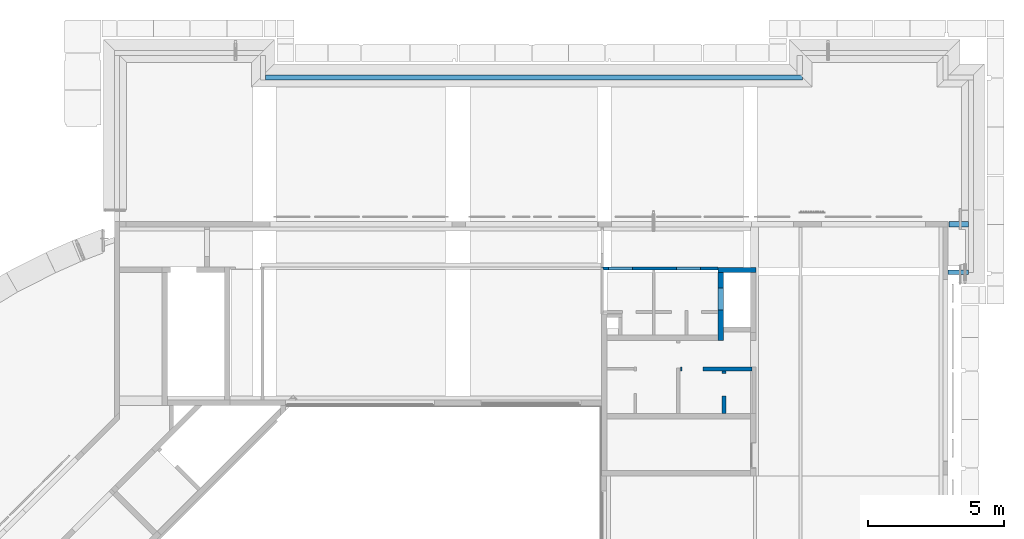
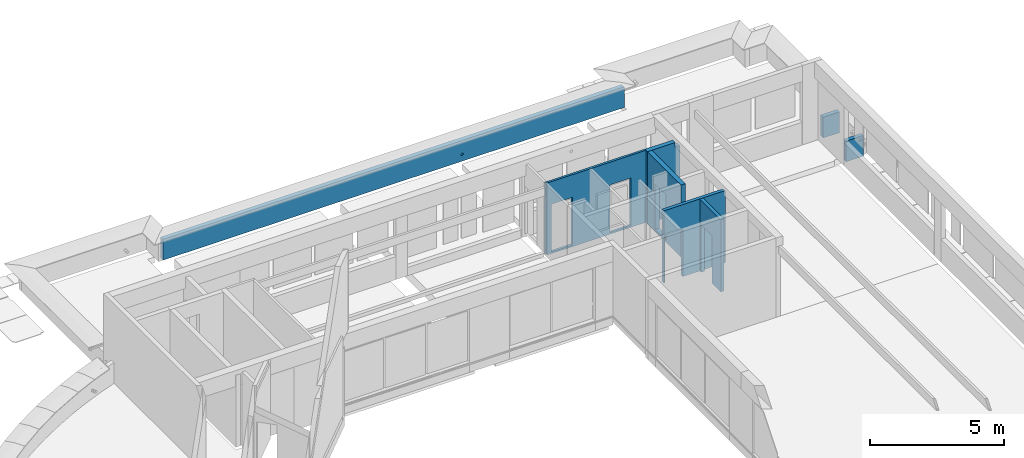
# One storey, part 27 of 38: 8 walls.
"""IFC4X3_ADD2 building model written with IfcOpenShell, lengths in millimetres."""

from ifc_helpers import new_model, si_unit, direction, frame, origin_with_axes, place, context, subcontext, project, spatial, faceted_brep, polygons, source, transform, mapped, type_object, type_shapes, element, save


model = new_model("IFC4X3_ADD2")

# Units and contexts
model_context = context("Model", 3, precision=1e-05, world=origin_with_axes(), true_north=direction((0.0, 1.0)))
body_context = subcontext(model_context, "Body", "Model", "MODEL_VIEW")
ifc_project = project(units=[si_unit("LENGTHUNIT", "METRE", prefix="MILLI"), si_unit("AREAUNIT", "SQUARE_METRE"), si_unit("VOLUMEUNIT", "CUBIC_METRE"), si_unit("PLANEANGLEUNIT", "RADIAN"), si_unit("TIMEUNIT", "SECOND"), si_unit("MASSUNIT", "GRAM")], contexts=[model_context])

# Site, building, storey
site_placement = place(None, origin_with_axes())
site = spatial("IfcSite", under=ifc_project, at=site_placement, Name="Site", CompositionType="ELEMENT")
building_placement = place(site_placement, origin_with_axes())
building = spatial("IfcBuilding", under=site, at=building_placement, Name="IFC Building Story")
storey_placement = place(building_placement, frame((0.0, 0.0, 10800.0), z_axis=(0.0, 0.0, 1.0), x_axis=(1.0, 0.0, 0.0)))
storey = spatial("IfcBuildingStorey", under=building, at=storey_placement, Name="030", Elevation=10800.0)

# Walls
wall_type = type_object("IfcWallType", Name="Basic Wall_BB_10.01.41#02_Gipskartonwand_Vochtbestendig_MS100 _ 25.50.25_ 100 mm5", PredefinedType="NOTDEFINED")
shared_shape = source(origin_with_axes(), body_context, "Body", "Brep", [
    faceted_brep([(4225.00390322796, 49.9999999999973, 0.0), (4225.00390322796, 49.9999999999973, 3270.0), (4225.00390322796, 37.5000000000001, 3270.0), (4225.00390322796, 37.5000000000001, 0.0), (-87.5, 49.9999999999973, 3270.0), (-87.5, 37.5000000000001, 3270.0), (-87.50000000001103, 49.9999999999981, 0.0), (-87.50000000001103, 37.4999999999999, 0.0), (3575.00390322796, 49.9999999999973, 2240.0), (3575.00390322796, 49.9999999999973, 75.0), (3575.00390322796, 37.5000000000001, 75.0), (3575.00390322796, 37.5000000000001, 2240.0), (2685.003903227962, 49.9999999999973, 75.0), (2685.003903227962, 37.5000000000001, 75.0), (2685.003903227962, 49.9999999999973, 2240.0), (2685.003903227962, 37.5000000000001, 2240.0), (1060.00390322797, 49.9999999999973, 2240.0), (1060.00390322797, 49.9999999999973, 75.0), (1060.00390322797, 37.5000000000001, 75.0), (1060.00390322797, 37.5000000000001, 2240.0), (170.0039032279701, 49.9999999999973, 75.0), (170.0039032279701, 37.5000000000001, 75.0), (170.0039032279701, 49.9999999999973, 2240.0), (170.0039032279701, 37.5000000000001, 2240.0)], [[[0, 1, 2, 3]], [[1, 4, 5, 2]], [[4, 6, 7, 5]], [[6, 0, 3, 7]], [[8, 9, 10, 11]], [[9, 12, 13, 10]], [[12, 14, 15, 13]], [[14, 8, 11, 15]], [[16, 17, 18, 19]], [[17, 20, 21, 18]], [[20, 22, 23, 21]], [[22, 16, 19, 23]], [[17, 16, 22, 20], [9, 8, 14, 12], [1, 0, 6, 4]], [[23, 19, 18, 21], [15, 11, 10, 13], [7, 3, 2, 5]]], outer=[[True], [True], [True], [True], [True], [True], [True], [True], [True], [True], [True], [True], [False, False, True], [False, False, True]]),
    faceted_brep([(4225.00390322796, 37.5000000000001, 0.0), (4225.00390322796, 37.5000000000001, 3270.0), (4225.00390322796, 25.0, 3270.0), (4225.00390322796, 25.0, 0.0), (-75.0, 37.4999999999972, 3270.0), (-75.0, 25.0, 3270.0), (-74.99999999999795, 37.5000000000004, 0.0), (-74.99999999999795, 25.0, 0.0), (3575.00390322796, 37.5000000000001, 2240.0), (3575.00390322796, 37.5000000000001, 75.0), (3575.00390322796, 25.0, 75.0), (3575.00390322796, 25.0, 2240.0), (2685.003903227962, 37.5000000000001, 75.0), (2685.003903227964, 25.0, 75.0), (2685.003903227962, 37.5000000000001, 2240.0), (2685.003903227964, 25.0, 2240.0), (1060.00390322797, 37.5000000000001, 2240.0), (1060.00390322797, 37.5000000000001, 75.0), (1060.00390322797, 25.0, 75.0), (1060.00390322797, 25.0, 2240.0), (170.0039032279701, 37.5000000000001, 75.0), (170.0039032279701, 25.0, 75.0), (170.0039032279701, 37.5000000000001, 2240.0), (170.0039032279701, 25.0, 2240.0)], [[[0, 1, 2, 3]], [[1, 4, 5, 2]], [[4, 6, 7, 5]], [[6, 0, 3, 7]], [[8, 9, 10, 11]], [[9, 12, 13, 10]], [[12, 14, 15, 13]], [[14, 8, 11, 15]], [[16, 17, 18, 19]], [[17, 20, 21, 18]], [[20, 22, 23, 21]], [[22, 16, 19, 23]], [[17, 16, 22, 20], [9, 8, 14, 12], [1, 0, 6, 4]], [[23, 19, 18, 21], [15, 11, 10, 13], [7, 3, 2, 5]]], outer=[[True], [True], [True], [True], [True], [True], [True], [True], [True], [True], [True], [True], [False, False, True], [False, False, True]]),
    faceted_brep([(4225.00390322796, 25.0, 0.0), (4225.00390322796, 25.0, 3270.0), (4225.00390322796, -25.0, 3270.0), (4225.00390322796, -25.0, 0.0), (-25.0, 25.000000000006, 3270.0), (-25.0, -25.0, 3270.0), (-24.999999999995, 24.9999999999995, 0.0), (-24.999999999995, -25.0, 0.0), (3575.00390322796, 25.0, 2240.0), (3575.00390322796, 25.0, 75.0), (3575.00390322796, -25.0, 75.0), (3575.00390322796, -25.0, 2240.0), (2685.003903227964, 25.0, 75.0), (2685.003903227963, -25.0, 75.0), (2685.003903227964, 25.0, 2240.0), (2685.003903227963, -25.0, 2240.0), (1060.00390322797, 25.0, 2240.0), (1060.00390322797, 25.0, 75.0), (1060.00390322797, -25.0, 75.0), (1060.00390322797, -25.0, 2240.0), (170.0039032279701, 25.0, 75.0), (170.0039032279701, -25.0, 75.0), (170.0039032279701, 25.0, 2240.0), (170.0039032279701, -25.0, 2240.0)], [[[0, 1, 2, 3]], [[1, 4, 5, 2]], [[4, 6, 7, 5]], [[6, 0, 3, 7]], [[8, 9, 10, 11]], [[9, 12, 13, 10]], [[12, 14, 15, 13]], [[14, 8, 11, 15]], [[16, 17, 18, 19]], [[17, 20, 21, 18]], [[20, 22, 23, 21]], [[22, 16, 19, 23]], [[17, 16, 22, 20], [9, 8, 14, 12], [1, 0, 6, 4]], [[23, 19, 18, 21], [15, 11, 10, 13], [7, 3, 2, 5]]], outer=[[True], [True], [True], [True], [True], [True], [True], [True], [True], [True], [True], [True], [False, False, True], [False, False, True]]),
    faceted_brep([(4225.00390322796, -25.0, 0.0), (4225.00390322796, -25.0, 3270.0), (4225.00390322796, -37.5000000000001, 3270.0), (4225.00390322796, -37.5000000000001, 0.0), (-12.5, -25.0000000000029, 3270.0), (-12.5, -37.5000000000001, 3270.0), (-12.50000000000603, -24.9999999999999, 0.0), (-12.50000000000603, -37.5000000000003, 0.0), (3575.00390322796, -25.0, 2240.0), (3575.00390322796, -25.0, 75.0), (3575.00390322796, -37.5000000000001, 75.0), (3575.00390322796, -37.5000000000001, 2240.0), (2685.003903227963, -25.0, 75.0), (2685.003903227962, -37.5000000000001, 75.0), (2685.003903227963, -25.0, 2240.0), (2685.003903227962, -37.5000000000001, 2240.0), (1060.00390322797, -25.0, 2240.0), (1060.00390322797, -25.0, 75.0), (1060.00390322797, -37.5000000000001, 75.0), (1060.00390322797, -37.5000000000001, 2240.0), (170.0039032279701, -25.0, 75.0), (170.0039032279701, -37.5000000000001, 75.0), (170.0039032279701, -25.0, 2240.0), (170.0039032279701, -37.5000000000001, 2240.0)], [[[0, 1, 2, 3]], [[1, 4, 5, 2]], [[4, 6, 7, 5]], [[6, 0, 3, 7]], [[8, 9, 10, 11]], [[9, 12, 13, 10]], [[12, 14, 15, 13]], [[14, 8, 11, 15]], [[16, 17, 18, 19]], [[17, 20, 21, 18]], [[20, 22, 23, 21]], [[22, 16, 19, 23]], [[17, 16, 22, 20], [9, 8, 14, 12], [1, 0, 6, 4]], [[23, 19, 18, 21], [15, 11, 10, 13], [7, 3, 2, 5]]], outer=[[True], [True], [True], [True], [True], [True], [True], [True], [True], [True], [True], [True], [False, False, True], [False, False, True]]),
    faceted_brep([(4225.00390322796, -37.5000000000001, 0.0), (4225.00390322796, -37.5000000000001, 3270.0), (4225.00390322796, -50.0, 3270.0), (4225.00390322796, -50.0, 0.0), (0.0, -37.4999999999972, 3270.0), (0.0, -50.0000000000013, 3270.0), (0.0, -37.5000000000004, 0.0), (0.0, -50.0, 0.0), (1060.00390322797, -37.5000000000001, 2240.0), (1060.00390322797, -37.5000000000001, 75.0), (1060.00390322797, -50.0, 75.0), (1060.00390322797, -50.0, 2240.0), (170.0039032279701, -37.5000000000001, 75.0), (170.0039032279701, -50.0, 75.0), (170.0039032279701, -37.5000000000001, 2240.0), (170.0039032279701, -50.0, 2240.0), (3575.00390322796, -37.5000000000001, 2240.0), (3575.00390322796, -37.5000000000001, 75.0), (3575.00390322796, -50.0, 75.0), (3575.00390322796, -50.0, 2240.0), (2685.003903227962, -37.5000000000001, 75.0), (2685.003903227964, -50.0, 75.0), (2685.003903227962, -37.5000000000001, 2240.0), (2685.003903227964, -50.0, 2240.0)], [[[0, 1, 2, 3]], [[1, 4, 5, 2]], [[4, 6, 7, 5]], [[6, 0, 3, 7]], [[8, 9, 10, 11]], [[9, 12, 13, 10]], [[12, 14, 15, 13]], [[14, 8, 11, 15]], [[16, 17, 18, 19]], [[17, 20, 21, 18]], [[20, 22, 23, 21]], [[22, 16, 19, 23]], [[17, 16, 22, 20], [9, 8, 14, 12], [1, 0, 6, 4]], [[23, 19, 18, 21], [15, 11, 10, 13], [7, 3, 2, 5]]], outer=[[True], [True], [True], [True], [True], [True], [True], [True], [True], [True], [True], [True], [False, False, True], [False, False, True]]),
])
type_shapes(wall_type, [shared_shape])
wall_1_placement = place(storey_placement, frame((-12615.0040658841, 43655.0, -80.0), z_axis=(0.0, 0.0, 1.0), x_axis=(1.0, 0.0, 0.0)))
element("IfcWall", 1, at=wall_1_placement, inside=storey, type_object=wall_type, Name="Basic Wall:BB_10.01.41#02_Gipskartonwand_Vochtbestendig_MS100 / 25.50.25, 100 mm", ObjectType="Basic Wall:BB_10.01.41#02_Gipskartonwand_Vochtbestendig_MS100 / 25.50.25, 100 mm", PredefinedType="PARTITIONING", context=body_context, shape_type="MappedRepresentation", body=[
    mapped(shared_shape, transform((0.0, 0.0, 0.0))),
])
wall_2_placement = place(storey_placement, frame((0.0, 0.0, -10800.0), z_axis=(0.0, 0.0, 1.0), x_axis=(1.0, 0.0, 0.0)))
element("IfcWall", 2, at=wall_2_placement, inside=storey, Name="Basic Wall:BB_XX_Wand uit metselwerk, 190 mm", ObjectType="Basic Wall:BB_XX_Wand uit metselwerk, 190 mm", PredefinedType="SOLIDWALL", context=body_context, shape_type="Tessellation", body=[
    polygons([(-8390.000162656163, 43499.99999999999, 10720.0), (-8200.00016265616, 43499.99999999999, 10720.0), (-7190.000000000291, 43499.99999999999, 10720.0), (-7000.000000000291, 43500.00000000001, 10720.0), (-7000.000000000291, 43500.00000000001, 13790.00000000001), (-7190.000000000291, 43499.99999999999, 13790.00000000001), (-7199.999999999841, 43499.99999999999, 13790.00000000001), (-7199.999999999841, 43499.99999999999, 13990.0), (-8200.00016265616, 43499.99999999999, 13990.0), (-8390.000162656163, 43499.99999999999, 13990.0), (-7000.000000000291, 43690.00000000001, 10720.0), (-8390.000162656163, 43689.99999999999, 10720.0), (-8390.000162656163, 43689.99999999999, 13990.0), (-7199.999999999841, 43689.99999999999, 13990.0), (-7199.999999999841, 43689.99999999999, 13790.00000000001), (-7000.000000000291, 43690.00000000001, 13790.00000000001)], [[[3, 4, 5]], [[3, 5, 6]], [[7, 8, 9]], [[9, 2, 3]], [[9, 3, 7]], [[3, 6, 7]], [[9, 10, 1]], [[9, 1, 2]], [[15, 16, 11]], [[11, 12, 13]], [[11, 13, 15]], [[13, 14, 15]], [[2, 1, 12]], [[12, 11, 3]], [[12, 3, 2]], [[11, 4, 3]], [[9, 8, 14]], [[9, 14, 13]], [[13, 10, 9]], [[4, 11, 16, 5]], [[1, 10, 13, 12]], [[6, 5, 16]], [[6, 16, 15]], [[15, 7, 6]], [[7, 15, 14, 8]]]),
])
wall_3_placement = place(storey_placement, frame((0.0, 0.0, -10800.0), z_axis=(0.0, 0.0, 1.0), x_axis=(1.0, 0.0, 0.0)))
element("IfcWall", 3, at=wall_3_placement, inside=storey, Name="Basic Wall:BB_XX_Wand uit metselwerk, 190 mm", ObjectType="Basic Wall:BB_XX_Wand uit metselwerk, 190 mm", PredefinedType="SOLIDWALL", context=body_context, shape_type="Tessellation", body=[
    polygons([(-8390.00016265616, 43499.99999999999, 10720.0), (-8390.00016265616, 41189.99999999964, 10720.0), (-8390.00016265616, 40999.99999999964, 10720.0), (-8390.00016265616, 40999.99999999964, 13990.0), (-8390.00016265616, 41189.99999999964, 13990.0), (-8390.00016265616, 43500.0, 13990.0), (-8390.00016265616, 42126.99999999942, 12860.0), (-8390.00016265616, 42126.99999999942, 10800.0), (-8390.00016265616, 42932.99999999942, 10800.0), (-8390.00016265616, 42932.99999999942, 12860.0), (-8200.00016265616, 40999.99999999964, 10720.0), (-8200.00016265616, 43499.99999999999, 10720.0), (-8200.00016265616, 43499.99999999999, 13990.0), (-8200.00016265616, 40999.99999999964, 13990.0), (-8200.00016265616, 42126.99999999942, 10800.0), (-8200.00016265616, 42126.99999999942, 12860.0), (-8200.00016265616, 42932.99999999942, 12860.0), (-8200.00016265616, 42932.99999999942, 10800.0)], [[[2, 3, 4]], [[4, 5, 7]], [[4, 7, 8]], [[4, 8, 2]], [[10, 7, 5]], [[10, 5, 6]], [[6, 1, 9]], [[6, 9, 10]], [[1, 8, 9]], [[1, 2, 8]], [[15, 11, 12]], [[12, 18, 15]], [[12, 13, 17]], [[12, 17, 18]], [[13, 14, 16]], [[13, 16, 17]], [[14, 11, 15]], [[14, 15, 16]], [[2, 1, 12]], [[2, 12, 11]], [[11, 3, 2]], [[4, 3, 11, 14]], [[5, 4, 14]], [[14, 13, 6]], [[14, 6, 5]], [[1, 6, 13, 12]], [[7, 16, 15, 8]], [[8, 15, 18, 9]], [[9, 18, 17, 10]], [[16, 7, 10, 17]]]),
])
wall_4_placement = place(storey_placement, frame((0.0, 0.0, -10800.0), z_axis=(0.0, 0.0, 1.0), x_axis=(1.0, 0.0, 0.0)))
element("IfcWall", 4, at=wall_4_placement, inside=storey, Name="Basic Wall:BB_XX_Wand uit metselwerk, 140 mm", ObjectType="Basic Wall:BB_XX_Wand uit metselwerk, 140 mm", PredefinedType="SOLIDWALL", context=body_context, shape_type="Tessellation", body=[
    polygons([(-8241.044228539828, 38300.00000000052, 10720.0), (-8241.044228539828, 38300.00000000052, 13990.0), (-8241.04422853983, 39870.0, 13990.0), (-8241.04422853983, 39870.0, 10720.0), (-8241.04422853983, 39774.99999999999, 10720.0), (-8241.04422853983, 39774.99999999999, 12870.0), (-8241.04422853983, 38954.99999999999, 12870.0), (-8241.04422853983, 38954.99999999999, 10720.0), (-8101.044228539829, 38300.00000000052, 13990.0), (-8101.044228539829, 38300.00000000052, 10720.0), (-8101.044228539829, 38954.99999999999, 10720.0), (-8101.044228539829, 38954.99999999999, 12870.0), (-8101.044228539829, 39774.99999999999, 12870.0), (-8101.044228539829, 39774.99999999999, 10720.0), (-8101.044228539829, 39870.0, 10720.0), (-8101.044228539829, 39870.0, 13990.0)], [[[7, 8, 1]], [[7, 1, 2]], [[2, 3, 6]], [[2, 6, 7]], [[6, 3, 4]], [[4, 5, 6]], [[13, 14, 15]], [[15, 16, 13]], [[16, 9, 12]], [[16, 12, 13]], [[9, 10, 11]], [[9, 11, 12]], [[4, 15, 14, 5]], [[2, 1, 10, 9]], [[3, 2, 9, 16]], [[4, 3, 16, 15]], [[7, 12, 11, 8]], [[13, 6, 5, 14]], [[12, 7, 6, 13]], [[10, 1, 8, 11]]]),
])
wall_5_placement = place(storey_placement, frame((0.0, 0.0, -10800.0), z_axis=(0.0, 0.0, 1.0), x_axis=(1.0, 0.0, 0.0)))
element("IfcWall", 5, at=wall_5_placement, inside=storey, Name="Basic Wall:BB_XX_Wand uit metselwerk, 140 mm", ObjectType="Basic Wall:BB_XX_Wand uit metselwerk, 140 mm", PredefinedType="SOLIDWALL", context=body_context, shape_type="Tessellation", body=[
    polygons([(-7140.000000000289, 39870.0, 10720.0), (-7140.000000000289, 39870.0, 13990.0), (-9783.544065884, 39870.0, 13990.0), (-9783.544065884, 39870.0, 10720.0), (-9728.544065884, 39870.0, 10720.0), (-9728.544065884, 39870.0, 12870.0), (-8958.544065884, 39870.0, 12870.0), (-8958.544065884, 39870.0, 10720.0), (-7140.000000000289, 40010.0, 13990.0), (-7140.000000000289, 40010.0, 10720.0), (-8958.544065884, 40010.0, 10720.0), (-8958.544065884, 40010.0, 12870.0), (-9728.544065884, 40010.0, 12870.0), (-9728.544065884, 40010.0, 10720.0), (-9783.544065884, 40010.0, 10720.0), (-9783.544065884, 40010.0, 13990.0)], [[[7, 8, 1]], [[7, 1, 2]], [[2, 3, 7]], [[3, 6, 7]], [[6, 3, 4]], [[4, 5, 6]], [[13, 14, 15]], [[15, 16, 13]], [[16, 12, 13]], [[12, 16, 9]], [[9, 10, 11]], [[9, 11, 12]], [[7, 12, 11, 8]], [[13, 6, 5, 14]], [[12, 7, 6, 13]], [[4, 15, 14, 5]], [[2, 1, 10, 9]], [[3, 2, 9, 16]], [[4, 3, 16, 15]], [[10, 1, 8, 11]]]),
])
wall_6_placement = place(storey_placement, frame((0.0, 0.0, -10800.0), z_axis=(0.0, 0.0, 1.0), x_axis=(1.0, 0.0, 0.0)))
element("IfcWall", 6, at=wall_6_placement, inside=storey, Name="Basic Wall:BB_XX_Wand uit beton, 170 mm", ObjectType="Basic Wall:BB_XX_Wand uit beton, 170 mm", PredefinedType="SOLIDWALL", context=body_context, shape_type="Tessellation", body=[
    polygons([(494.859371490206, 43594.7396111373, 11540.0), (95.00000000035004, 43594.7396111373, 11540.0), (95.00000000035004, 43424.7396111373, 11540.0), (494.859371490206, 43424.7396111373, 11540.0), (839.9999999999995, 43594.7396111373, 11540.0), (566.859371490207, 43594.7396111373, 11540.0), (566.859371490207, 43424.7396111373, 11540.0), (839.9999999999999, 43424.7396111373, 11540.0), (839.9999999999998, 43509.7396111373, 11540.0), (494.859371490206, 43424.7396111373, 11537.99999999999), (566.859371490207, 43424.7396111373, 11537.99999999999), (566.859371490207, 43594.7396111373, 11537.99999999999), (494.859371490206, 43594.7396111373, 11537.99999999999), (839.9999999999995, 43594.7396111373, 10600.0), (95.00000000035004, 43594.7396111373, 10600.0), (762.4258933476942, 43594.7396111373, 11363.45018208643), (765.5989880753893, 43594.7396111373, 11376.33510374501), (765.5989880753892, 43594.7396111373, 11389.6056431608), (762.4258933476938, 43594.7396111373, 11402.49056481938), (756.264112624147, 43594.7396111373, 11414.24104390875), (747.4717462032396, 43594.7396111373, 11424.1741852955), (736.559774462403, 43594.7396111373, 11431.71271090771), (724.162361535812, 43594.7396111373, 11436.41850903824), (710.999999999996, 43594.7396111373, 11438.01809580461), (697.83763846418, 43594.7396111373, 11436.41850903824), (685.440225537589, 43594.7396111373, 11431.71271090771), (674.528253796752, 43594.7396111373, 11424.1741852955), (665.735887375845, 43594.7396111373, 11414.24104390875), (659.574106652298, 43594.7396111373, 11402.49056481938), (656.401011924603, 43594.7396111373, 11389.6056431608), (656.401011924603, 43594.7396111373, 11376.33510374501), (659.574106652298, 43594.7396111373, 11363.45018208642), (665.735887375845, 43594.7396111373, 11351.69970299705), (674.528253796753, 43594.7396111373, 11341.76656161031), (685.440225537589, 43594.7396111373, 11334.22803599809), (697.837638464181, 43594.7396111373, 11329.52223786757), (710.999999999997, 43594.7396111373, 11327.92265110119), (724.162361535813, 43594.7396111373, 11329.52223786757), (736.559774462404, 43594.7396111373, 11334.22803599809), (747.4717462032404, 43594.7396111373, 11341.76656161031), (756.2641126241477, 43594.7396111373, 11351.69970299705), (95.00000000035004, 43424.7396111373, 10600.0), (839.9999999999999, 43424.7396111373, 10600.0), (659.574106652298, 43424.7396111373, 11356.36684875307), (656.401011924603, 43424.7396111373, 11369.25177041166), (656.401011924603, 43424.7396111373, 11382.52230982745), (659.574106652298, 43424.7396111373, 11395.40723148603), (665.735887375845, 43424.7396111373, 11407.1577105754), (674.528253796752, 43424.7396111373, 11417.09085196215), (685.440225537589, 43424.7396111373, 11424.62937757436), (697.83763846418, 43424.7396111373, 11429.33517570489), (710.999999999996, 43424.7396111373, 11430.93476247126), (724.162361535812, 43424.7396111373, 11429.33517570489), (736.559774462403, 43424.7396111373, 11424.62937757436), (747.4717462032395, 43424.7396111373, 11417.09085196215), (756.264112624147, 43424.7396111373, 11407.1577105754), (762.4258933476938, 43424.7396111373, 11395.40723148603), (765.5989880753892, 43424.7396111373, 11382.52230982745), (765.5989880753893, 43424.7396111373, 11369.25177041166), (762.4258933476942, 43424.7396111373, 11356.36684875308), (756.2641126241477, 43424.7396111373, 11344.6163696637), (747.4717462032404, 43424.7396111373, 11334.68322827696), (736.559774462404, 43424.7396111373, 11327.14470266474), (724.162361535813, 43424.7396111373, 11322.43890453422), (710.999999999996, 43424.7396111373, 11320.83931776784), (697.837638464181, 43424.7396111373, 11322.43890453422), (685.440225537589, 43424.7396111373, 11327.14470266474), (674.528253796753, 43424.7396111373, 11334.68322827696), (665.735887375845, 43424.7396111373, 11344.6163696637), (839.9999999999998, 43509.7396111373, 10600.0)], [[[1, 2, 3, 4]], [[9, 5, 6]], [[9, 6, 7]], [[7, 8, 9]], [[10, 11, 12, 13]], [[12, 6, 5]], [[16, 5, 14]], [[14, 41, 16]], [[14, 40, 41]], [[14, 39, 40]], [[14, 38, 39]], [[14, 37, 38]], [[14, 36, 37]], [[14, 35, 36]], [[14, 34, 35]], [[14, 33, 34]], [[14, 13, 33]], [[13, 32, 33]], [[13, 31, 32]], [[13, 30, 31]], [[13, 29, 30]], [[13, 28, 29]], [[13, 12, 27]], [[13, 27, 28]], [[12, 26, 27]], [[12, 25, 26]], [[12, 5, 24]], [[12, 24, 25]], [[5, 23, 24]], [[5, 22, 23]], [[5, 21, 22]], [[5, 20, 21]], [[5, 19, 20]], [[5, 18, 19]], [[5, 17, 18]], [[5, 16, 17]], [[14, 15, 2]], [[14, 2, 13]], [[2, 1, 13]], [[10, 4, 3]], [[3, 44, 10]], [[44, 11, 10]], [[69, 44, 3]], [[3, 68, 69]], [[3, 42, 43]], [[3, 43, 67]], [[3, 67, 68]], [[43, 66, 67]], [[43, 65, 66]], [[43, 64, 65]], [[43, 63, 64]], [[43, 62, 63]], [[43, 61, 62]], [[43, 60, 61]], [[43, 8, 60]], [[8, 59, 60]], [[8, 58, 59]], [[8, 57, 58]], [[8, 56, 57]], [[8, 55, 56]], [[8, 54, 55]], [[8, 53, 54]], [[8, 52, 53]], [[8, 11, 51]], [[8, 51, 52]], [[11, 50, 51]], [[11, 49, 50]], [[11, 48, 49]], [[11, 47, 48]], [[11, 46, 47]], [[11, 45, 46]], [[11, 44, 45]], [[8, 7, 11]], [[70, 43, 42]], [[70, 42, 15]], [[15, 14, 70]], [[2, 15, 42, 3]], [[18, 17, 59, 58]], [[11, 7, 6, 12]], [[22, 54, 53, 23]], [[23, 53, 52, 24]], [[18, 58, 57, 19]], [[20, 56, 55, 21]], [[56, 20, 19, 57]], [[21, 55, 54, 22]], [[59, 17, 16, 60]], [[60, 16, 41, 61]], [[38, 64, 63, 39]], [[63, 62, 40, 39]], [[61, 41, 40, 62]], [[64, 38, 37, 65]], [[66, 65, 37, 36]], [[66, 36, 35, 67]], [[69, 68, 34, 33]], [[33, 32, 44, 69]], [[67, 35, 34, 68]], [[45, 44, 32, 31]], [[31, 30, 46, 45]], [[4, 10, 13, 1]], [[70, 14, 5]], [[70, 5, 9]], [[9, 8, 43]], [[9, 43, 70]], [[29, 28, 48, 47]], [[30, 29, 47, 46]], [[27, 26, 50, 49]], [[25, 24, 52, 51]], [[26, 25, 51, 50]], [[28, 27, 49, 48]]]),
])
wall_7_placement = place(storey_placement, frame((0.0, 0.0, -10800.0), z_axis=(0.0, 0.0, 1.0), x_axis=(1.0, 0.0, 0.0)))
element("IfcWall", 7, at=wall_7_placement, inside=storey, Name="Basic Wall:BB_03.09.24#03_Wand uit metselwerk, 190 mm", ObjectType="Basic Wall:BB_03.09.24#03_Wand uit metselwerk, 190 mm", PredefinedType="SOLIDWALL", context=body_context, shape_type="Tessellation", body=[
    polygons([(-25090.0, 50604.99999999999, 10794.7), (-25090.0, 50604.99999999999, 10600.0), (-5284.9999999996, 50604.99999999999, 10600.0), (-5284.9999999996, 50604.99999999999, 10794.69999999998), (-5284.9999999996, 50604.99999999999, 11540.0), (-25090.0, 50604.99999999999, 11540.0), (-12304.5989880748, 50604.99999999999, 10904.25177041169), (-12304.5989880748, 50604.99999999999, 10917.52230982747), (-12301.4258933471, 50604.99999999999, 10930.40723148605), (-12295.2641126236, 50604.99999999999, 10942.15771057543), (-12286.4717462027, 50604.99999999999, 10952.09085196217), (-12275.5597744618, 50604.99999999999, 10959.62937757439), (-12263.1623615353, 50604.99999999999, 10964.33517570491), (-12249.9999999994, 50604.99999999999, 10965.93476247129), (-12236.8376384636, 50604.99999999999, 10964.33517570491), (-12224.440225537, 50604.99999999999, 10959.62937757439), (-12213.5282537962, 50604.99999999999, 10952.09085196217), (-12204.7358873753, 50604.99999999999, 10942.15771057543), (-12198.5741066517, 50604.99999999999, 10930.40723148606), (-12195.401011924, 50604.99999999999, 10917.52230982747), (-12195.401011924, 50604.99999999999, 10904.25177041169), (-12198.5741066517, 50604.99999999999, 10891.3668487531), (-12204.7358873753, 50604.99999999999, 10879.61636966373), (-12213.5282537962, 50604.99999999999, 10869.68322827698), (-12224.440225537, 50604.99999999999, 10862.14470266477), (-12236.8376384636, 50604.99999999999, 10857.43890453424), (-12249.9999999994, 50604.99999999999, 10855.83931776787), (-12263.1623615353, 50604.99999999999, 10857.43890453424), (-12275.5597744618, 50604.99999999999, 10862.14470266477), (-12286.4717462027, 50604.99999999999, 10869.68322827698), (-12295.2641126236, 50604.99999999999, 10879.61636966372), (-12301.4258933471, 50604.99999999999, 10891.3668487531), (-5284.9999999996, 50794.99999999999, 10600.0), (-5474.9999999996, 50794.99999999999, 10600.0), (-25090.0, 50794.99999999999, 10600.0), (-25090.0, 50794.99999999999, 11540.0), (-5474.9999999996, 50794.99999999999, 11540.0), (-5284.9999999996, 50794.99999999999, 11540.0), (-5284.9999999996, 50794.99999999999, 10791.59666667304), (-12195.401011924, 50794.99999999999, 10909.60564316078), (-12198.5741066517, 50794.99999999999, 10922.49056481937), (-12204.7358873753, 50794.99999999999, 10934.24104390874), (-12213.5282537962, 50794.99999999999, 10944.17418529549), (-12224.440225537, 50794.99999999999, 10951.7127109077), (-12236.8376384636, 50794.99999999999, 10956.41850903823), (-12249.9999999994, 50794.99999999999, 10958.0180958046), (-12263.1623615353, 50794.99999999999, 10956.41850903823), (-12275.5597744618, 50794.99999999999, 10951.7127109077), (-12286.4717462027, 50794.99999999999, 10944.17418529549), (-12295.2641126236, 50794.99999999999, 10934.24104390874), (-12301.4258933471, 50794.99999999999, 10922.49056481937), (-12304.5989880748, 50794.99999999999, 10909.60564316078), (-12304.5989880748, 50794.99999999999, 10896.335103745), (-12301.4258933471, 50794.99999999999, 10883.45018208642), (-12295.2641126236, 50794.99999999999, 10871.69970299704), (-12286.4717462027, 50794.99999999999, 10861.7665616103), (-12275.5597744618, 50794.99999999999, 10854.22803599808), (-12263.1623615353, 50794.99999999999, 10849.52223786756), (-12249.9999999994, 50794.99999999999, 10847.92265110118), (-12236.8376384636, 50794.99999999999, 10849.52223786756), (-12224.440225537, 50794.99999999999, 10854.22803599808), (-12213.5282537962, 50794.99999999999, 10861.7665616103), (-12204.7358873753, 50794.99999999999, 10871.69970299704), (-12198.5741066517, 50794.99999999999, 10883.45018208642), (-12195.401011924, 50794.99999999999, 10896.335103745)], [[[1, 2, 7]], [[32, 7, 2]], [[2, 31, 32]], [[2, 30, 31]], [[2, 29, 30]], [[2, 28, 29]], [[2, 27, 28]], [[2, 4, 27]], [[4, 26, 27]], [[4, 25, 26]], [[4, 24, 25]], [[4, 23, 24]], [[4, 22, 23]], [[4, 21, 22]], [[4, 5, 20]], [[4, 20, 21]], [[5, 19, 20]], [[5, 18, 19]], [[5, 17, 18]], [[5, 16, 17]], [[5, 15, 16]], [[5, 14, 15]], [[14, 5, 6]], [[6, 13, 14]], [[6, 12, 13]], [[6, 11, 12]], [[6, 10, 11]], [[6, 9, 10]], [[6, 8, 9]], [[6, 1, 7]], [[6, 7, 8]], [[2, 3, 4]], [[39, 33, 34]], [[34, 37, 38]], [[34, 38, 39]], [[65, 40, 37]], [[65, 37, 34]], [[34, 64, 65]], [[34, 63, 64]], [[34, 62, 63]], [[34, 61, 62]], [[34, 60, 61]], [[34, 59, 60]], [[59, 34, 35]], [[35, 58, 59]], [[35, 57, 58]], [[35, 56, 57]], [[35, 55, 56]], [[35, 54, 55]], [[35, 53, 54]], [[35, 36, 52]], [[35, 52, 53]], [[36, 51, 52]], [[36, 50, 51]], [[36, 49, 50]], [[36, 48, 49]], [[36, 47, 48]], [[36, 46, 47]], [[36, 37, 46]], [[37, 45, 46]], [[37, 44, 45]], [[37, 43, 44]], [[37, 42, 43]], [[37, 41, 42]], [[37, 40, 41]], [[34, 33, 3]], [[3, 2, 35]], [[3, 35, 34]], [[37, 36, 6]], [[37, 6, 5]], [[5, 38, 37]], [[1, 6, 36]], [[1, 36, 35]], [[35, 2, 1]], [[21, 20, 40, 65]], [[4, 3, 33]], [[4, 33, 39]], [[39, 38, 5]], [[39, 5, 4]], [[8, 7, 53, 52]], [[12, 48, 47, 13]], [[13, 47, 46, 14]], [[8, 52, 51, 9]], [[10, 50, 49, 11]], [[50, 10, 9, 51]], [[11, 49, 48, 12]], [[53, 7, 32, 54]], [[54, 32, 31, 55]], [[28, 58, 57, 29]], [[57, 56, 30, 29]], [[55, 31, 30, 56]], [[58, 28, 27, 59]], [[60, 59, 27, 26]], [[60, 26, 25, 61]], [[63, 62, 24, 23]], [[23, 22, 64, 63]], [[61, 25, 24, 62]], [[65, 64, 22, 21]], [[19, 18, 42, 41]], [[20, 19, 41, 40]], [[17, 16, 44, 43]], [[15, 14, 46, 45]], [[16, 15, 45, 44]], [[18, 17, 43, 42]]]),
])
wall_8_placement = place(storey_placement, frame((0.0, 0.0, -10800.0), z_axis=(0.0, 0.0, 1.0), x_axis=(1.0, 0.0, 0.0)))
element("IfcWall", 8, at=wall_8_placement, inside=storey, Name="Basic Wall:BB_03.09.24#03_Wand uit metselwerk, 190 mm", ObjectType="Basic Wall:BB_03.09.24#03_Wand uit metselwerk, 190 mm", PredefinedType="SOLIDWALL", context=body_context, shape_type="Tessellation", body=[
    polygons([(839.9999999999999, 45380.00000000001, 10600.0), (130.0000000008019, 45380.00000000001, 10600.0), (130.0000000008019, 45380.00000000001, 11540.0), (509.000000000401, 45380.00000000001, 11540.0), (509.000000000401, 45380.00000000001, 11537.99999999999), (581.000000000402, 45380.00000000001, 11537.99999999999), (581.000000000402, 45380.00000000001, 11540.0), (839.9999999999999, 45380.00000000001, 11540.0), (130.0000000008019, 45190.00000000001, 10600.0), (839.9999999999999, 45190.00000000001, 10600.0), (839.9999999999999, 45190.00000000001, 11540.0), (581.000000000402, 45190.00000000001, 11540.0), (581.000000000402, 45190.00000000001, 11537.99999999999), (509.000000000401, 45190.00000000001, 11537.99999999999), (509.000000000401, 45190.00000000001, 11540.0), (130.0000000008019, 45190.00000000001, 11540.0)], [[[6, 7, 8]], [[6, 8, 1]], [[1, 5, 6]], [[1, 2, 3]], [[1, 3, 5]], [[3, 4, 5]], [[14, 15, 16]], [[14, 16, 9]], [[14, 9, 10]], [[10, 13, 14]], [[10, 11, 13]], [[11, 12, 13]], [[2, 1, 10, 9]], [[3, 2, 9, 16]], [[3, 16, 15, 4]], [[1, 8, 11, 10]], [[14, 5, 4, 15]], [[5, 14, 13, 6]], [[6, 13, 12, 7]], [[11, 8, 7, 12]]]),
])

save(model, "model.ifc")
